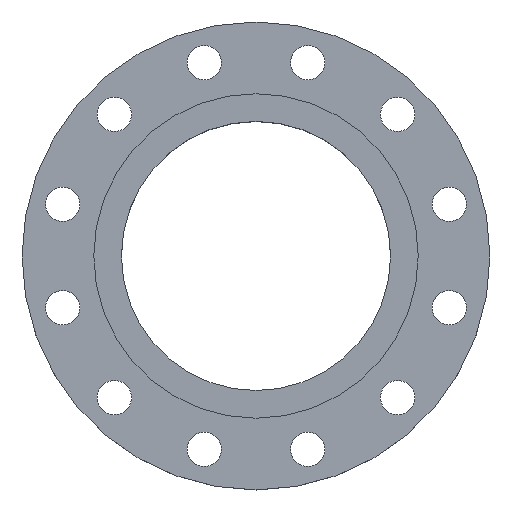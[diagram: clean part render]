
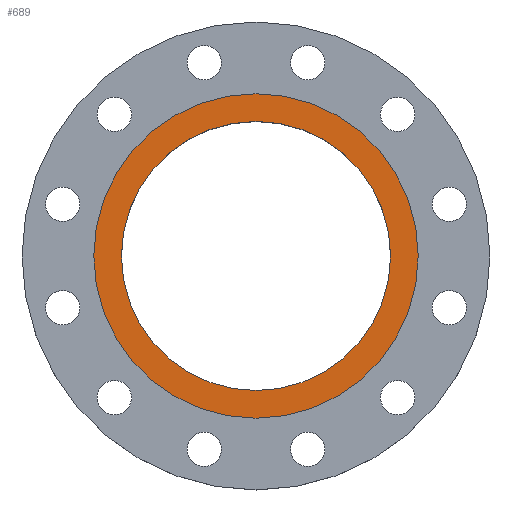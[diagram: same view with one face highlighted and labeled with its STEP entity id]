
A CAD part, top view. The second image highlights one B-rep face of the part: STEP entity #689.
In plain terms, the highlighted planar face has unit normal (0, 0, 1).
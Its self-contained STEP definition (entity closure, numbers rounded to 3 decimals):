
#63 = CARTESIAN_POINT ( 'NONE',  ( -129.4, 0., 0. ) ) ;
#68 = CARTESIAN_POINT ( 'NONE',  ( 156., 0., 0. ) ) ;
#135 = DIRECTION ( 'NONE',  ( -1., 0., 0. ) ) ;
#136 = DIRECTION ( 'NONE',  ( 0., 0., -1. ) ) ;
#137 = CARTESIAN_POINT ( 'NONE',  ( 0., 0., 0. ) ) ;
#174 = AXIS2_PLACEMENT_3D ( 'NONE', #633, #632, #630 ) ;
#242 = AXIS2_PLACEMENT_3D ( 'NONE', #137, #136, #135 ) ;
#252 = AXIS2_PLACEMENT_3D ( 'NONE', #686, #684, #683 ) ;
#273 = CIRCLE ( 'NONE', #242, 156. ) ;
#278 = CARTESIAN_POINT ( 'NONE',  ( 129.4, 0., 0. ) ) ;
#366 = CARTESIAN_POINT ( 'NONE',  ( -156., 0., 0. ) ) ;
#494 = EDGE_CURVE ( 'NONE', #1020, #1379, #638, .T. ) ;
#535 = CIRCLE ( 'NONE', #252, 129.4 ) ;
#601 = EDGE_CURVE ( 'NONE', #1146, #1387, #535, .T. ) ;
#630 = DIRECTION ( 'NONE',  ( 1., 0., 0. ) ) ;
#632 = DIRECTION ( 'NONE',  ( 0., 0., 1. ) ) ;
#633 = CARTESIAN_POINT ( 'NONE',  ( 0., 0., 0. ) ) ;
#634 = FACE_OUTER_BOUND ( 'NONE', #1411, .T. ) ;
#636 = FACE_BOUND ( 'NONE', #1227, .T. ) ;
#638 = CIRCLE ( 'NONE', #640, 156. ) ;
#640 = AXIS2_PLACEMENT_3D ( 'NONE', #715, #714, #711 ) ;
#649 = EDGE_CURVE ( 'NONE', #1387, #1146, #1271, .T. ) ;
#656 = PLANE ( 'NONE',  #174 ) ;
#657 = DIRECTION ( 'NONE',  ( -1., 0., 0. ) ) ;
#658 = DIRECTION ( 'NONE',  ( 0., 0., -1. ) ) ;
#659 = CARTESIAN_POINT ( 'NONE',  ( 0., 0., 0. ) ) ;
#683 = DIRECTION ( 'NONE',  ( -1., 0., 0. ) ) ;
#684 = DIRECTION ( 'NONE',  ( 0., 0., -1. ) ) ;
#686 = CARTESIAN_POINT ( 'NONE',  ( 0., 0., 0. ) ) ;
#689 = ADVANCED_FACE ( 'NONE', ( #636, #634 ), #656, .T. ) ;
#711 = DIRECTION ( 'NONE',  ( -1., 0., 0. ) ) ;
#714 = DIRECTION ( 'NONE',  ( 0., 0., -1. ) ) ;
#715 = CARTESIAN_POINT ( 'NONE',  ( 0., 0., 0. ) ) ;
#1020 = VERTEX_POINT ( 'NONE', #366 ) ;
#1083 = AXIS2_PLACEMENT_3D ( 'NONE', #659, #658, #657 ) ;
#1146 = VERTEX_POINT ( 'NONE', #278 ) ;
#1227 = EDGE_LOOP ( 'NONE', ( #1285, #1286 ) ) ;
#1264 = EDGE_CURVE ( 'NONE', #1379, #1020, #273, .T. ) ;
#1271 = CIRCLE ( 'NONE', #1083, 129.4 ) ;
#1285 = ORIENTED_EDGE ( 'NONE', *, *, #649, .T. ) ;
#1286 = ORIENTED_EDGE ( 'NONE', *, *, #601, .T. ) ;
#1287 = ORIENTED_EDGE ( 'NONE', *, *, #494, .F. ) ;
#1288 = ORIENTED_EDGE ( 'NONE', *, *, #1264, .F. ) ;
#1379 = VERTEX_POINT ( 'NONE', #68 ) ;
#1387 = VERTEX_POINT ( 'NONE', #63 ) ;
#1411 = EDGE_LOOP ( 'NONE', ( #1287, #1288 ) ) ;
